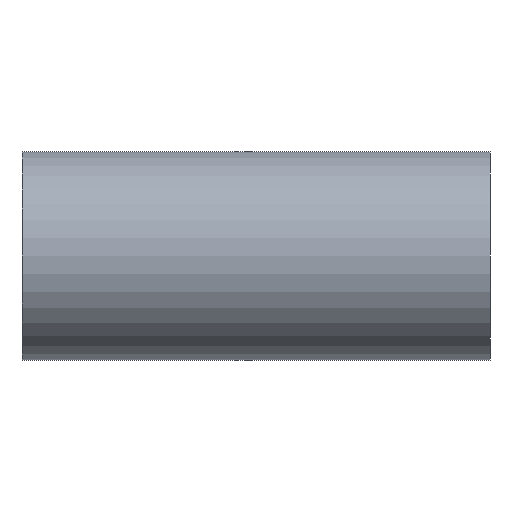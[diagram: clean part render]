
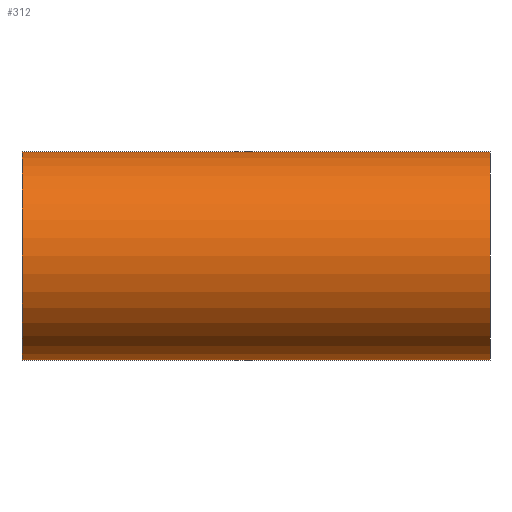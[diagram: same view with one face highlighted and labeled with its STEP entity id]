
A CAD part, front view. The second image highlights one B-rep face of the part: STEP entity #312.
In plain terms, the highlighted cylindrical face has radius 76.2 mm (diameter 152.4 mm), a partial arc.
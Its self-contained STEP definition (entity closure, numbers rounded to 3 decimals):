
#15 = EDGE_CURVE ( 'NONE', #36, #353, #482, .T. ) ;
#17 = LINE ( 'NONE', #542, #165 ) ;
#18 = VECTOR ( 'NONE', #517, 1000. ) ;
#36 = VERTEX_POINT ( 'NONE', #443 ) ;
#41 = DIRECTION ( 'NONE',  ( -1., 0., 0. ) ) ;
#49 = DIRECTION ( 'NONE',  ( -1., 0., 0. ) ) ;
#68 = EDGE_CURVE ( 'NONE', #526, #264, #17, .T. ) ;
#79 = CARTESIAN_POINT ( 'NONE',  ( -171., 0., -76.2 ) ) ;
#95 = CARTESIAN_POINT ( 'NONE',  ( 386.526, 0., 0. ) ) ;
#119 = DIRECTION ( 'NONE',  ( 0., 0., 1. ) ) ;
#121 = DIRECTION ( 'NONE',  ( 0., 0., 1. ) ) ;
#125 = CIRCLE ( 'NONE', #457, 76.2 ) ;
#147 = CARTESIAN_POINT ( 'NONE',  ( -171., 0., 0. ) ) ;
#165 = VECTOR ( 'NONE', #41, 1000. ) ;
#172 = CARTESIAN_POINT ( 'NONE',  ( -171., 0., 76.2 ) ) ;
#174 = EDGE_CURVE ( 'NONE', #264, #353, #378, .T. ) ;
#181 = EDGE_CURVE ( 'NONE', #36, #526, #125, .T. ) ;
#182 = FACE_OUTER_BOUND ( 'NONE', #328, .T. ) ;
#207 = AXIS2_PLACEMENT_3D ( 'NONE', #147, #360, #121 ) ;
#215 = AXIS2_PLACEMENT_3D ( 'NONE', #95, #49, #498 ) ;
#228 = DIRECTION ( 'NONE',  ( -1., 0., 0. ) ) ;
#252 = ORIENTED_EDGE ( 'NONE', *, *, #68, .T. ) ;
#263 = CARTESIAN_POINT ( 'NONE',  ( 386.526, 0., -76.2 ) ) ;
#264 = VERTEX_POINT ( 'NONE', #172 ) ;
#278 = ORIENTED_EDGE ( 'NONE', *, *, #15, .F. ) ;
#285 = ORIENTED_EDGE ( 'NONE', *, *, #174, .T. ) ;
#312 = ADVANCED_FACE ( 'NONE', ( #182 ), #359, .T. ) ;
#328 = EDGE_LOOP ( 'NONE', ( #278, #502, #252, #285 ) ) ;
#353 = VERTEX_POINT ( 'NONE', #79 ) ;
#359 = CYLINDRICAL_SURFACE ( 'NONE', #215, 76.2 ) ;
#360 = DIRECTION ( 'NONE',  ( 1., 0., 0. ) ) ;
#378 = CIRCLE ( 'NONE', #207, 76.2 ) ;
#441 = CARTESIAN_POINT ( 'NONE',  ( 171., 0., 0. ) ) ;
#443 = CARTESIAN_POINT ( 'NONE',  ( 171., 0., -76.2 ) ) ;
#447 = CARTESIAN_POINT ( 'NONE',  ( 171., 0., 76.2 ) ) ;
#457 = AXIS2_PLACEMENT_3D ( 'NONE', #441, #228, #119 ) ;
#482 = LINE ( 'NONE', #263, #18 ) ;
#498 = DIRECTION ( 'NONE',  ( 0., 0., 1. ) ) ;
#502 = ORIENTED_EDGE ( 'NONE', *, *, #181, .T. ) ;
#517 = DIRECTION ( 'NONE',  ( -1., 0., 0. ) ) ;
#526 = VERTEX_POINT ( 'NONE', #447 ) ;
#542 = CARTESIAN_POINT ( 'NONE',  ( 386.526, 0., 76.2 ) ) ;
